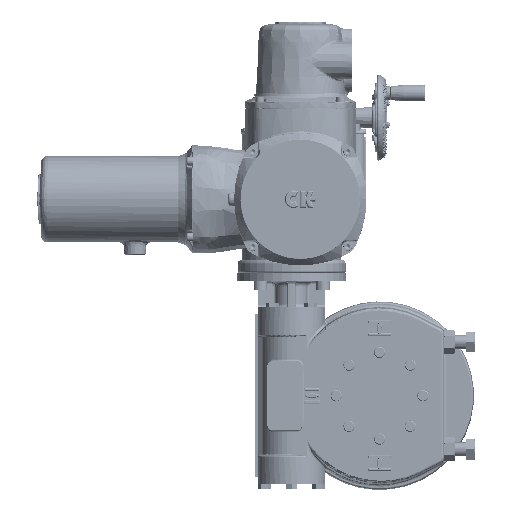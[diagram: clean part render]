
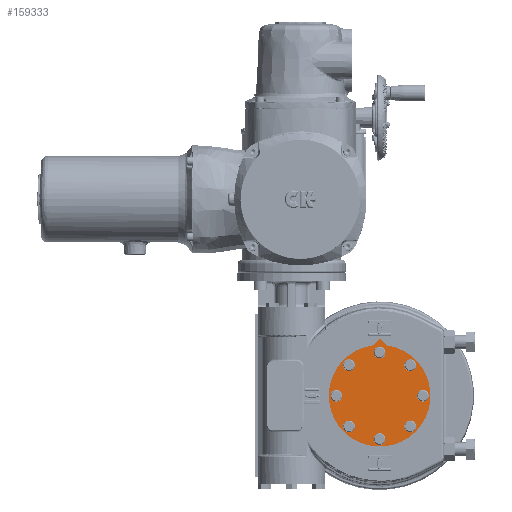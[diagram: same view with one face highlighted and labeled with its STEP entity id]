
A CAD part, left-side view. The second image highlights one B-rep face of the part: STEP entity #159333.
In plain terms, the highlighted planar face has unit normal (-1, 0, 0) as drawn and (0, -1, 0) by its records, which use the part's own axes.
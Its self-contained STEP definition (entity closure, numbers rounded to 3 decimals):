
#13078=PLANE('',#167863);
#19178=LINE('',#309136,#25231);
#19179=LINE('',#309138,#25232);
#25231=VECTOR('',#190736,1000.);
#25232=VECTOR('',#190737,1000.);
#57101=ORIENTED_EDGE('',*,*,#73610,.F.);
#57102=ORIENTED_EDGE('',*,*,#73611,.F.);
#57103=ORIENTED_EDGE('',*,*,#73612,.F.);
#57104=ORIENTED_EDGE('',*,*,#73333,.T.);
#57105=ORIENTED_EDGE('',*,*,#72990,.T.);
#57106=ORIENTED_EDGE('',*,*,#72647,.T.);
#57107=ORIENTED_EDGE('',*,*,#72304,.T.);
#57108=ORIENTED_EDGE('',*,*,#71961,.T.);
#57109=ORIENTED_EDGE('',*,*,#71894,.T.);
#57110=ORIENTED_EDGE('',*,*,#71275,.T.);
#57111=ORIENTED_EDGE('',*,*,#70932,.T.);
#70932=EDGE_CURVE('',#82125,#82125,#86987,.T.);
#71275=EDGE_CURVE('',#82350,#82350,#87008,.T.);
#71894=EDGE_CURVE('',#82733,#82733,#87031,.T.);
#71961=EDGE_CURVE('',#82800,#82800,#87050,.T.);
#72304=EDGE_CURVE('',#83025,#83025,#87071,.T.);
#72647=EDGE_CURVE('',#83250,#83250,#87092,.T.);
#72990=EDGE_CURVE('',#83475,#83475,#87113,.T.);
#73333=EDGE_CURVE('',#83700,#83700,#87134,.T.);
#73610=EDGE_CURVE('',#83859,#83860,#87137,.T.);
#73611=EDGE_CURVE('',#83861,#83859,#19178,.T.);
#73612=EDGE_CURVE('',#83860,#83861,#19179,.T.);
#82125=VERTEX_POINT('',#303723);
#82350=VERTEX_POINT('',#304416);
#82733=VERTEX_POINT('',#305665);
#82800=VERTEX_POINT('',#305802);
#83025=VERTEX_POINT('',#306495);
#83250=VERTEX_POINT('',#307188);
#83475=VERTEX_POINT('',#307881);
#83700=VERTEX_POINT('',#308574);
#83859=VERTEX_POINT('',#309134);
#83860=VERTEX_POINT('',#309135);
#83861=VERTEX_POINT('',#309137);
#86987=CIRCLE('',#166475,6.75);
#87008=CIRCLE('',#166653,6.75);
#87031=CIRCLE('',#166971,6.75);
#87050=CIRCLE('',#167009,6.75);
#87071=CIRCLE('',#167187,6.75);
#87092=CIRCLE('',#167365,6.75);
#87113=CIRCLE('',#167543,6.75);
#87134=CIRCLE('',#167721,6.75);
#87137=CIRCLE('',#167864,58.75);
#94815=EDGE_LOOP('',(#57101,#57102,#57103));
#94816=EDGE_LOOP('',(#57104));
#94817=EDGE_LOOP('',(#57105));
#94818=EDGE_LOOP('',(#57106));
#94819=EDGE_LOOP('',(#57107));
#94820=EDGE_LOOP('',(#57108));
#94821=EDGE_LOOP('',(#57109));
#94822=EDGE_LOOP('',(#57110));
#94823=EDGE_LOOP('',(#57111));
#102709=FACE_BOUND('',#94815,.T.);
#102710=FACE_BOUND('',#94816,.T.);
#102711=FACE_BOUND('',#94817,.T.);
#102712=FACE_BOUND('',#94818,.T.);
#102713=FACE_BOUND('',#94819,.T.);
#102714=FACE_BOUND('',#94820,.T.);
#102715=FACE_BOUND('',#94821,.T.);
#102716=FACE_BOUND('',#94822,.T.);
#102717=FACE_BOUND('',#94823,.T.);
#159333=ADVANCED_FACE('',(#102709,#102710,#102711,#102712,#102713,#102714,
#102715,#102716,#102717),#13078,.F.);
#166475=AXIS2_PLACEMENT_3D('',#303722,#185668,#185669);
#166653=AXIS2_PLACEMENT_3D('',#304415,#186314,#186315);
#166971=AXIS2_PLACEMENT_3D('',#305664,#187498,#187499);
#167009=AXIS2_PLACEMENT_3D('',#305801,#187606,#187607);
#167187=AXIS2_PLACEMENT_3D('',#306494,#188252,#188253);
#167365=AXIS2_PLACEMENT_3D('',#307187,#188898,#188899);
#167543=AXIS2_PLACEMENT_3D('',#307880,#189544,#189545);
#167721=AXIS2_PLACEMENT_3D('',#308573,#190190,#190191);
#167863=AXIS2_PLACEMENT_3D('',#309132,#190732,#190733);
#167864=AXIS2_PLACEMENT_3D('',#309133,#190734,#190735);
#185668=DIRECTION('',(0.,1.,0.));
#185669=DIRECTION('',(-0.707,0.,-0.707));
#186314=DIRECTION('',(0.,1.,0.));
#186315=DIRECTION('',(1.,0.,0.));
#187498=DIRECTION('',(0.,1.,0.));
#187499=DIRECTION('',(0.,0.,1.));
#187606=DIRECTION('',(0.,1.,0.));
#187607=DIRECTION('',(-1.,0.,0.));
#188252=DIRECTION('',(0.,1.,0.));
#188253=DIRECTION('',(-0.707,0.,0.707));
#188898=DIRECTION('',(0.,1.,0.));
#188899=DIRECTION('',(0.707,0.,0.707));
#189544=DIRECTION('',(0.,1.,0.));
#189545=DIRECTION('',(0.707,0.,-0.707));
#190190=DIRECTION('',(0.,1.,0.));
#190191=DIRECTION('',(0.,0.,-1.));
#190732=DIRECTION('',(0.,1.,0.));
#190733=DIRECTION('',(0.,0.,1.));
#190734=DIRECTION('',(0.,1.,0.));
#190735=DIRECTION('',(0.,0.,1.));
#190736=DIRECTION('',(0.707,0.,-0.707));
#190737=DIRECTION('',(0.707,0.,0.707));
#303722=CARTESIAN_POINT('',(66.27,-43.335,-223.645));
#303723=CARTESIAN_POINT('',(61.497,-43.335,-228.418));
#304415=CARTESIAN_POINT('',(101.625,-43.335,-309.));
#304416=CARTESIAN_POINT('',(108.375,-43.335,-309.));
#305664=CARTESIAN_POINT('',(151.625,-43.335,-259.));
#305665=CARTESIAN_POINT('',(151.625,-43.335,-252.25));
#305801=CARTESIAN_POINT('',(101.625,-43.335,-209.));
#305802=CARTESIAN_POINT('',(94.875,-43.335,-209.));
#306494=CARTESIAN_POINT('',(136.98,-43.335,-223.645));
#306495=CARTESIAN_POINT('',(132.207,-43.335,-218.872));
#307187=CARTESIAN_POINT('',(136.98,-43.335,-294.355));
#307188=CARTESIAN_POINT('',(141.753,-43.335,-289.582));
#307880=CARTESIAN_POINT('',(66.27,-43.335,-294.355));
#307881=CARTESIAN_POINT('',(71.043,-43.335,-299.128));
#308573=CARTESIAN_POINT('',(51.625,-43.335,-259.));
#308574=CARTESIAN_POINT('',(51.625,-43.335,-265.75));
#309132=CARTESIAN_POINT('',(101.625,-43.335,-259.));
#309133=CARTESIAN_POINT('',(101.625,-43.335,-259.));
#309134=CARTESIAN_POINT('',(109.68,-43.335,-200.805));
#309135=CARTESIAN_POINT('',(93.57,-43.335,-200.805));
#309136=CARTESIAN_POINT('',(101.625,-43.335,-192.75));
#309137=CARTESIAN_POINT('',(101.625,-43.335,-192.75));
#309138=CARTESIAN_POINT('',(93.57,-43.335,-200.805));
